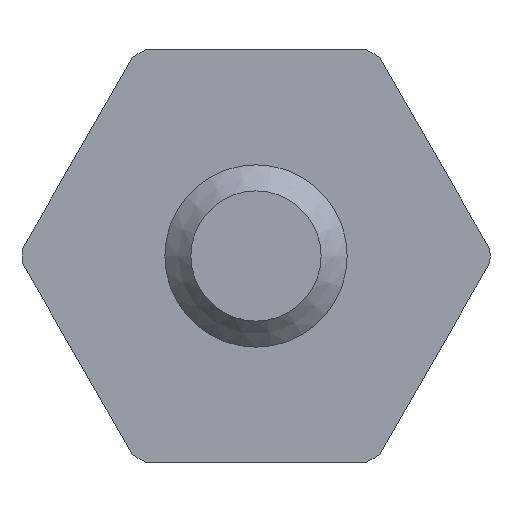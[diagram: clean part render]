
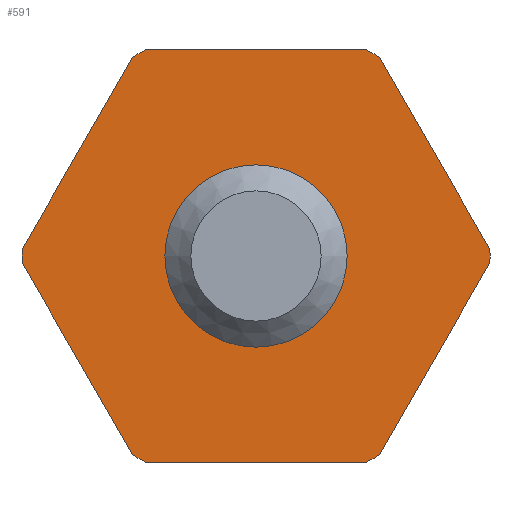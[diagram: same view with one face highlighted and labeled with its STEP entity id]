
A CAD part, left-side view. The second image highlights one B-rep face of the part: STEP entity #591.
In plain terms, the highlighted planar face has unit normal (-1, 0, 0).
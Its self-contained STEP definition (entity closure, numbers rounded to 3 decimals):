
#16=LINE($,#958,#46);
#17=LINE($,#960,#47);
#18=LINE($,#964,#48);
#19=LINE($,#968,#49);
#20=LINE($,#972,#50);
#21=LINE($,#976,#51);
#46=VECTOR($,#780,4.266);
#47=VECTOR($,#781,4.266);
#48=VECTOR($,#784,4.266);
#49=VECTOR($,#787,4.266);
#50=VECTOR($,#790,4.266);
#51=VECTOR($,#793,4.266);
#83=PLANE($,#656);
#112=FACE_BOUND($,#188,.T.);
#136=FACE_OUTER_BOUND($,#187,.T.);
#187=EDGE_LOOP($,(#419,#420,#421,#422,#423,#424,#425,#426,#427,#428,#429,
#430));
#188=EDGE_LOOP($,(#431));
#242=CIRCLE($,#655,4.5);
#243=CIRCLE($,#657,4.5);
#244=CIRCLE($,#658,4.5);
#245=CIRCLE($,#659,4.5);
#246=CIRCLE($,#660,4.5);
#247=CIRCLE($,#661,4.5);
#248=CIRCLE($,#662,1.266);
#282=VERTEX_POINT($,#951);
#283=VERTEX_POINT($,#953);
#284=VERTEX_POINT($,#957);
#285=VERTEX_POINT($,#959);
#286=VERTEX_POINT($,#961);
#287=VERTEX_POINT($,#963);
#288=VERTEX_POINT($,#965);
#289=VERTEX_POINT($,#967);
#290=VERTEX_POINT($,#969);
#291=VERTEX_POINT($,#971);
#292=VERTEX_POINT($,#973);
#293=VERTEX_POINT($,#975);
#294=VERTEX_POINT($,#978);
#336=EDGE_CURVE($,#283,#282,#242,.T.);
#337=EDGE_CURVE($,#284,#282,#16,.T.);
#338=EDGE_CURVE($,#283,#285,#17,.T.);
#339=EDGE_CURVE($,#286,#285,#243,.T.);
#340=EDGE_CURVE($,#286,#287,#18,.T.);
#341=EDGE_CURVE($,#288,#287,#244,.T.);
#342=EDGE_CURVE($,#288,#289,#19,.T.);
#343=EDGE_CURVE($,#290,#289,#245,.T.);
#344=EDGE_CURVE($,#290,#291,#20,.T.);
#345=EDGE_CURVE($,#292,#291,#246,.T.);
#346=EDGE_CURVE($,#292,#293,#21,.T.);
#347=EDGE_CURVE($,#284,#293,#247,.T.);
#348=EDGE_CURVE($,#294,#294,#248,.T.);
#419=ORIENTED_EDGE($,*,*,#337,.T.);
#420=ORIENTED_EDGE($,*,*,#336,.F.);
#421=ORIENTED_EDGE($,*,*,#338,.T.);
#422=ORIENTED_EDGE($,*,*,#339,.F.);
#423=ORIENTED_EDGE($,*,*,#340,.T.);
#424=ORIENTED_EDGE($,*,*,#341,.F.);
#425=ORIENTED_EDGE($,*,*,#342,.T.);
#426=ORIENTED_EDGE($,*,*,#343,.F.);
#427=ORIENTED_EDGE($,*,*,#344,.T.);
#428=ORIENTED_EDGE($,*,*,#345,.F.);
#429=ORIENTED_EDGE($,*,*,#346,.T.);
#430=ORIENTED_EDGE($,*,*,#347,.F.);
#431=ORIENTED_EDGE($,*,*,#348,.T.);
#591=ADVANCED_FACE($,(#136,#112),#83,.T.);
#655=AXIS2_PLACEMENT_3D($,#955,#776,#777);
#656=AXIS2_PLACEMENT_3D($,#956,#778,#779);
#657=AXIS2_PLACEMENT_3D($,#962,#782,#783);
#658=AXIS2_PLACEMENT_3D($,#966,#785,#786);
#659=AXIS2_PLACEMENT_3D($,#970,#788,#789);
#660=AXIS2_PLACEMENT_3D($,#974,#791,#792);
#661=AXIS2_PLACEMENT_3D($,#977,#794,#795);
#662=AXIS2_PLACEMENT_3D($,#979,#796,#797);
#776=DIRECTION('center_axis',(1.,0.,0.));
#777=DIRECTION('ref_axis',(0.,0.,
-1.));
#778=DIRECTION('center_axis',(-1.,0.,0.));
#779=DIRECTION('ref_axis',(0.,0.,1.));
#780=DIRECTION($,(0.,0.5,-0.866));
#781=DIRECTION($,(0.,-0.5,-0.866));
#782=DIRECTION('center_axis',(1.,0.,0.));
#783=DIRECTION('ref_axis',(0.,0.,
-1.));
#784=DIRECTION($,(0.,-1.,0.));
#785=DIRECTION('center_axis',(1.,0.,0.));
#786=DIRECTION('ref_axis',(0.,0.,
-1.));
#787=DIRECTION($,(0.,-0.5,0.866));
#788=DIRECTION('center_axis',(1.,0.,0.));
#789=DIRECTION('ref_axis',(0.,0.,
-1.));
#790=DIRECTION($,(0.,0.5,0.866));
#791=DIRECTION('center_axis',(1.,0.,0.));
#792=DIRECTION('ref_axis',(0.,0.,
-1.));
#793=DIRECTION($,(0.,1.,0.));
#794=DIRECTION('center_axis',(1.,0.,0.));
#795=DIRECTION('ref_axis',(0.,0.,
-1.));
#796=DIRECTION('center_axis',(1.,0.,0.));
#797=DIRECTION('ref_axis',(0.,0.,
-1.));
#951=CARTESIAN_POINT('',(-16.03,12.405,-4.777));
#953=CARTESIAN_POINT('',(-16.03,12.405,-5.045));
#955=CARTESIAN_POINT('Origin',(-16.03,7.907,-4.911));
#956=CARTESIAN_POINT('Origin',(-16.03,12.407,-4.911));
#957=CARTESIAN_POINT('',(-16.03,10.272,-1.083));
#958=CARTESIAN_POINT($,(-16.03,11.967,-4.018));
#959=CARTESIAN_POINT('',(-16.03,10.272,-8.74));
#960=CARTESIAN_POINT($,(-16.03,11.836,-6.032));
#961=CARTESIAN_POINT('',(-16.03,10.04,-8.874));
#962=CARTESIAN_POINT('Origin',(-16.03,7.907,-4.911));
#963=CARTESIAN_POINT('',(-16.03,5.774,-8.874));
#964=CARTESIAN_POINT($,(-16.03,10.026,-8.874));
#965=CARTESIAN_POINT('',(-16.03,5.542,-8.74));
#966=CARTESIAN_POINT('Origin',(-16.03,7.907,-4.911));
#967=CARTESIAN_POINT('',(-16.03,3.409,-5.045));
#968=CARTESIAN_POINT($,(-16.03,4.973,-7.753));
#969=CARTESIAN_POINT('',(-16.03,3.409,-4.777));
#970=CARTESIAN_POINT('Origin',(-16.03,7.907,-4.911));
#971=CARTESIAN_POINT('',(-16.03,5.542,-1.083));
#972=CARTESIAN_POINT($,(-16.03,5.103,-1.842));
#973=CARTESIAN_POINT('',(-16.03,5.774,-0.949));
#974=CARTESIAN_POINT('Origin',(-16.03,7.907,-4.911));
#975=CARTESIAN_POINT('',(-16.03,10.04,-0.949));
#976=CARTESIAN_POINT($,(-16.03,10.288,-0.949));
#977=CARTESIAN_POINT('Origin',(-16.03,7.907,-4.911));
#978=CARTESIAN_POINT('',(-16.03,9.173,-4.911));
#979=CARTESIAN_POINT('Origin',(-16.03,7.907,-4.911));
